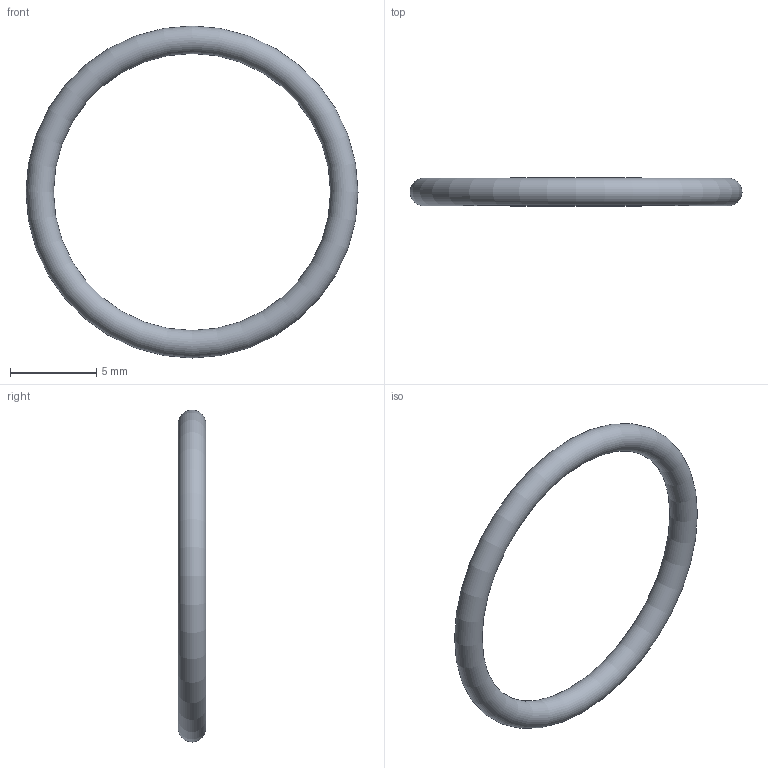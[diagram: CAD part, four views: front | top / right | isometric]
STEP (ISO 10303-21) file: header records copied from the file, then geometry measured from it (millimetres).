
FILE_DESCRIPTION( ( 'STEP AP203' ), '1' );
FILE_NAME( 'C:/Temp/Ganter_Step_05_03_2020/data/3_5/or638/O-Ring OR638-16.10-1.60-70.stp', '2020-03-12T13:44:19', ( 'License CC BY-ND 4.0' ), ( 'CADENAS' ), ' ', 'PARTsolutions', ' ' );
FILE_SCHEMA( ( 'CONFIG_CONTROL_DESIGN' ) );
Length unit declared in the file: millimetre
Products named in the file (1): _O-Ring OR638-16.10-1.60-70
Bounding box: 19.3 x 1.6 x 19.3 mm (x, y, z)
Volume: 111.8 mm3; surface area: 279.5 mm2
Topology: 1 solids, 1 shells, 1 faces, 2 edges, 1 vertices
Faces by surface type: torus 1
Entity records: 62 total; most frequent: CC_DESIGN_PERSON_AND_ORGANIZATION_ASSIGNMENT 5, PERSON_AND_ORGANIZATION_ROLE 4, DIRECTION 4, CARTESIAN_POINT 3, DATE_TIME_ROLE 2, CC_DESIGN_DATE_AND_TIME_ASSIGNMENT 2, AXIS2_PLACEMENT_3D 2, DIMENSIONAL_EXPONENTS 2
